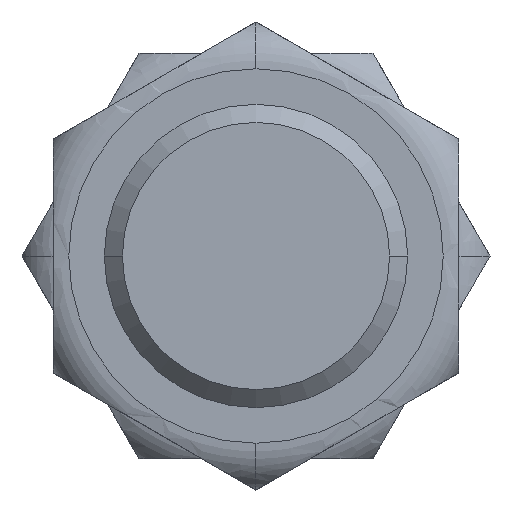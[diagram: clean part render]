
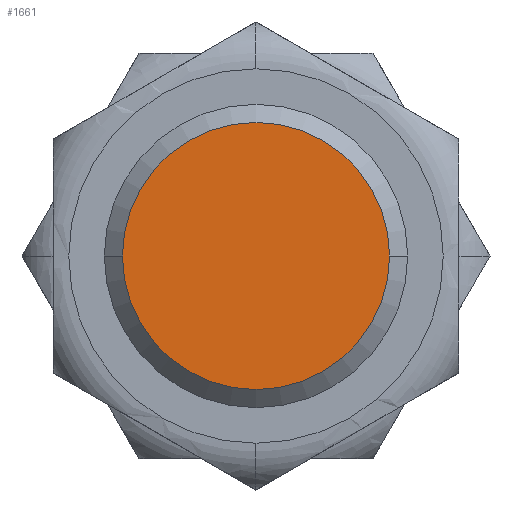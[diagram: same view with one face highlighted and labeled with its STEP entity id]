
A CAD part, left-side view. The second image highlights one B-rep face of the part: STEP entity #1661.
In plain terms, the highlighted planar face has unit normal (-1, 0, 0).
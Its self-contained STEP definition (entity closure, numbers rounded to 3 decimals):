
#971=CARTESIAN_POINT('',(0.,0.,0.));
#972=DIRECTION('',(-1.,0.,0.));
#973=DIRECTION('',(0.,1.,0.));
#974=AXIS2_PLACEMENT_3D('',#971,#972,#973);
#976=CARTESIAN_POINT('',(0.,0.,0.));
#977=DIRECTION('',(1.,0.,0.));
#978=DIRECTION('',(0.,1.,0.));
#979=AXIS2_PLACEMENT_3D('',#976,#977,#978);
#1085=CARTESIAN_POINT('',(0.,4.283,0.));
#1087=VERTEX_POINT('',#1085);
#1093=CARTESIAN_POINT('',(0.,-4.283,0.));
#1095=VERTEX_POINT('',#1093);
#1652=CARTESIAN_POINT('',(0.,0.,0.));
#1653=DIRECTION('',(1.,0.,0.));
#1654=DIRECTION('',(0.,-1.,0.));
#1655=AXIS2_PLACEMENT_3D('',#1652,#1653,#1654);
#1656=PLANE('122',#1655);
#1657=ORIENTED_EDGE('161',*,*,#1645,.F.);
#1658=ORIENTED_EDGE('123',*,*,#1634,.T.);
#1659=EDGE_LOOP('122',(#1657,#1658));
#1660=FACE_OUTER_BOUND('122',#1659,.F.);
#1661=ADVANCED_FACE('122',(#1660),#1656,.F.);
#975=CIRCLE('161',#974,4.283);
#980=CIRCLE('123',#979,4.283);
#1634=EDGE_CURVE('123',#1087,#1095,#980,.T.);
#1645=EDGE_CURVE('161',#1087,#1095,#975,.T.);
